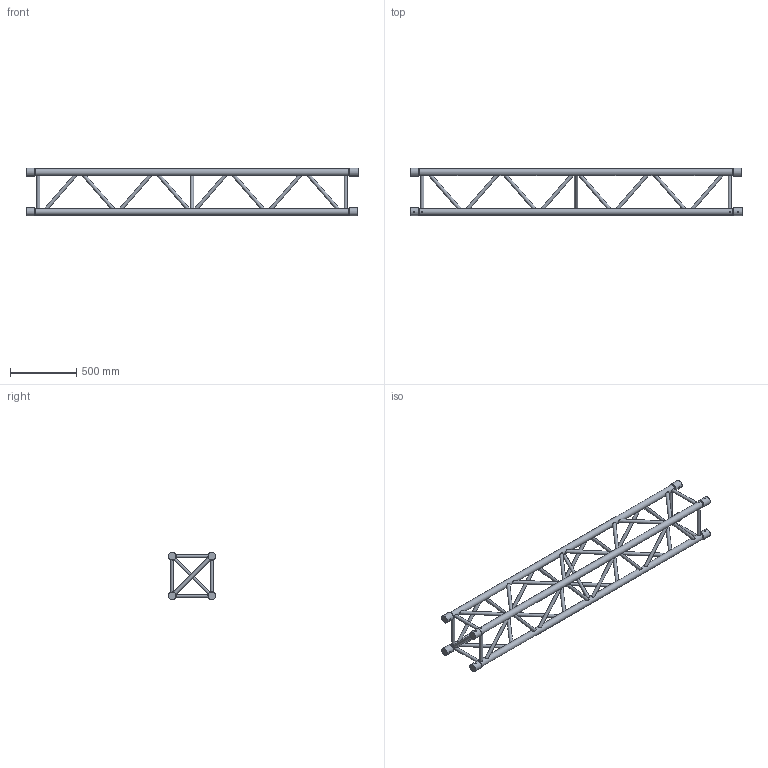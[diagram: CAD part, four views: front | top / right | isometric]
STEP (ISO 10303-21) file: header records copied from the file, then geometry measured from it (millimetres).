
FILE_DESCRIPTION(/* description */ (''),/* implementation_level */ '2;1');
FILE_NAME(/* name */ 'C:\Users\adrian.toca\Desktop\111110069.stp',/* time_stamp */ '2016-12-22T09:12:37+02:00',/* author */ ('adrian.toca'),/* organization */ (''),/* preprocessor_version */ 'ST-DEVELOPER v15.6',/* originating_system */ 'Autodesk Inventor 2015',/* authorisation */ '');
FILE_SCHEMA (('AUTOMOTIVE_DESIGN { 1 0 10303 214 3 1 1 }'));
Length unit declared in the file: millimetre
Products named in the file (1): 260031398
Bounding box: 2500 x 357.8 x 357.8 mm (x, y, z)
Volume: 6378532.2 mm3; surface area: 2725767.6 mm2
Topology: 4 solids, 7 shells, 206 faces, 546 edges, 348 vertices
Faces by surface type: cylinder 122, plane 76, cone 8
Full cylindrical faces by diameter (mm): 10 x8, 19 x1, 25 x43, 50 x4, 58.8 x8
Entity records: 8925 total; most frequent: CARTESIAN_POINT 4801, ORIENTED_EDGE 720, DIRECTION 710, EDGE_LOOP 380, AXIS2_PLACEMENT_3D 333, EDGE_CURVE 332, VERTEX_POINT 248, FACE_BOUND 200
